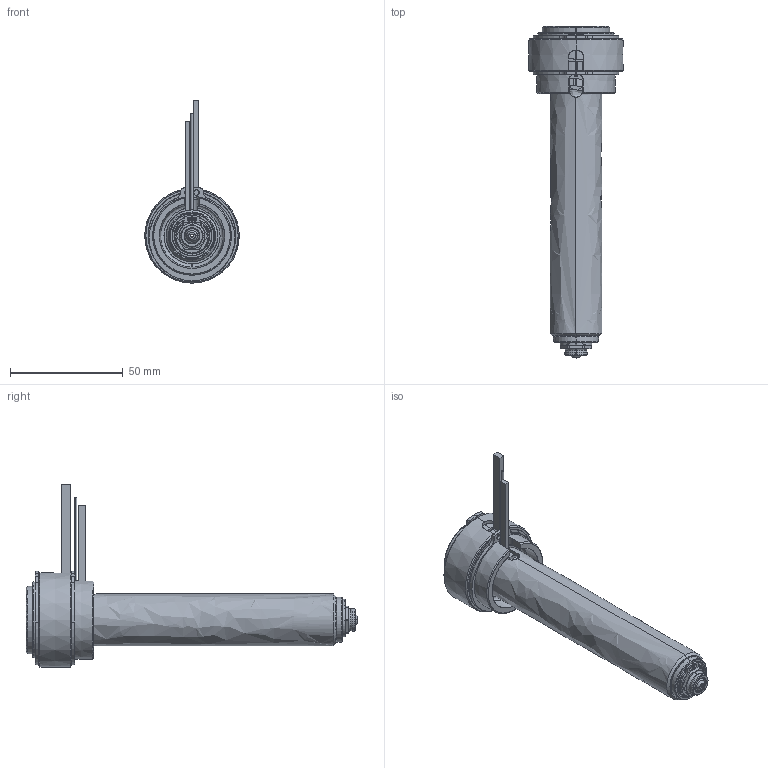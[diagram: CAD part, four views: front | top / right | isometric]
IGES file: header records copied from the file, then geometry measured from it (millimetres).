
Start section: SolidWorks IGES file using analytic representation for surfaces
Global section: file name: C:\Documents and Settings\ws-20\Desktop\TEM\UGER3553-M-A-1 [Øb-1.30  ØC-7.0].IGS; native system: SolidWorks 2012; preprocessor: SolidWorks 2012; author: ws-20; date: 120410.101006; units: millimetre
Bounding box: 42 x 147.4 x 80.9 mm (x, y, z)
Surface area: 37102.7 mm2 (no closed solid volume)
Topology: 0 solids, 0 shells, 196 faces, 3264 edges, 3264 vertices
Faces by surface type: revolution 124, bspline 72
